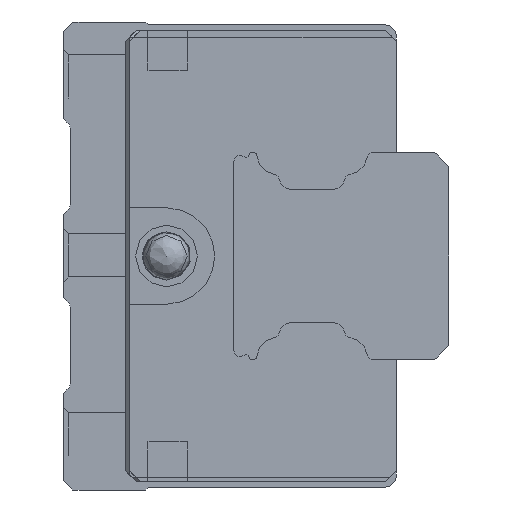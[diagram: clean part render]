
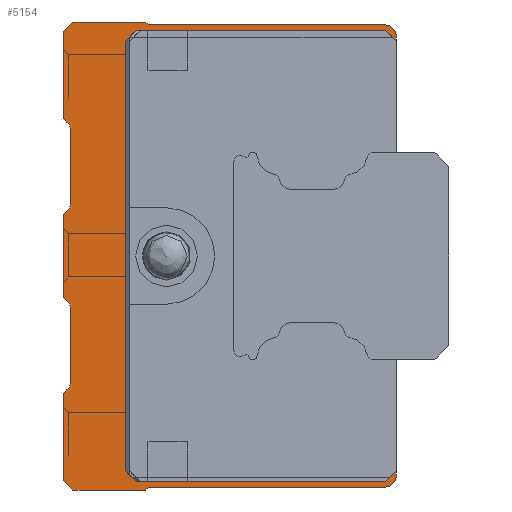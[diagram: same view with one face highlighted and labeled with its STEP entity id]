
A CAD part, left-side view. The second image highlights one B-rep face of the part: STEP entity #5154.
In plain terms, the highlighted planar face has unit normal (-1, 0, 0).
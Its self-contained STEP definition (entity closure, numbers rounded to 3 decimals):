
#67=LINE('',#7961,#382);
#75=LINE('',#7978,#390);
#82=LINE('',#7991,#397);
#108=LINE('',#8047,#423);
#116=LINE('',#8063,#431);
#122=LINE('',#8075,#437);
#147=LINE('',#8126,#462);
#152=LINE('',#8135,#467);
#154=LINE('',#8139,#469);
#158=LINE('',#8146,#473);
#162=LINE('',#8155,#477);
#165=LINE('',#8161,#480);
#169=LINE('',#8173,#484);
#173=LINE('',#8188,#488);
#177=LINE('',#8200,#492);
#180=LINE('',#8206,#495);
#183=LINE('',#8212,#498);
#186=LINE('',#8222,#501);
#189=LINE('',#8228,#504);
#193=LINE('',#8240,#508);
#197=LINE('',#8252,#512);
#200=LINE('',#8262,#515);
#203=LINE('',#8268,#518);
#207=LINE('',#8280,#522);
#211=LINE('',#8292,#526);
#214=LINE('',#8302,#529);
#382=VECTOR('',#6262,1000.);
#390=VECTOR('',#6276,1000.);
#397=VECTOR('',#6287,1000.);
#423=VECTOR('',#6327,1000.);
#431=VECTOR('',#6339,1000.);
#437=VECTOR('',#6351,1000.);
#462=VECTOR('',#6392,1000.);
#467=VECTOR('',#6399,1000.);
#469=VECTOR('',#6403,1000.);
#473=VECTOR('',#6409,1000.);
#477=VECTOR('',#6415,1000.);
#480=VECTOR('',#6420,1000.);
#484=VECTOR('',#6432,1000.);
#488=VECTOR('',#6450,1000.);
#492=VECTOR('',#6462,1000.);
#495=VECTOR('',#6467,1000.);
#498=VECTOR('',#6472,1000.);
#501=VECTOR('',#6481,1000.);
#504=VECTOR('',#6486,1000.);
#508=VECTOR('',#6498,1000.);
#512=VECTOR('',#6510,1000.);
#515=VECTOR('',#6519,1000.);
#518=VECTOR('',#6524,1000.);
#522=VECTOR('',#6536,1000.);
#526=VECTOR('',#6548,1000.);
#529=VECTOR('',#6557,1000.);
#731=PLANE('',#5582);
#1338=ORIENTED_EDGE('',*,*,#2393,.T.);
#1339=ORIENTED_EDGE('',*,*,#2400,.T.);
#1340=ORIENTED_EDGE('',*,*,#2473,.F.);
#1341=ORIENTED_EDGE('',*,*,#2495,.F.);
#1342=ORIENTED_EDGE('',*,*,#2492,.F.);
#1343=ORIENTED_EDGE('',*,*,#2489,.T.);
#1344=ORIENTED_EDGE('',*,*,#2486,.F.);
#1345=ORIENTED_EDGE('',*,*,#2483,.F.);
#1346=ORIENTED_EDGE('',*,*,#2479,.F.);
#1347=ORIENTED_EDGE('',*,*,#2557,.F.);
#1348=ORIENTED_EDGE('',*,*,#2552,.F.);
#1349=ORIENTED_EDGE('',*,*,#2549,.T.);
#1350=ORIENTED_EDGE('',*,*,#2546,.F.);
#1351=ORIENTED_EDGE('',*,*,#2543,.T.);
#1352=ORIENTED_EDGE('',*,*,#2540,.F.);
#1353=ORIENTED_EDGE('',*,*,#2537,.F.);
#1354=ORIENTED_EDGE('',*,*,#2532,.F.);
#1355=ORIENTED_EDGE('',*,*,#2529,.T.);
#1356=ORIENTED_EDGE('',*,*,#2526,.F.);
#1357=ORIENTED_EDGE('',*,*,#2523,.T.);
#1358=ORIENTED_EDGE('',*,*,#2520,.F.);
#1359=ORIENTED_EDGE('',*,*,#2517,.F.);
#1360=ORIENTED_EDGE('',*,*,#2512,.F.);
#1361=ORIENTED_EDGE('',*,*,#2509,.F.);
#1362=ORIENTED_EDGE('',*,*,#2506,.F.);
#1363=ORIENTED_EDGE('',*,*,#2503,.T.);
#1364=ORIENTED_EDGE('',*,*,#2500,.F.);
#1365=ORIENTED_EDGE('',*,*,#2497,.F.);
#1366=ORIENTED_EDGE('',*,*,#2475,.F.);
#1367=ORIENTED_EDGE('',*,*,#2435,.T.);
#1368=ORIENTED_EDGE('',*,*,#2442,.T.);
#1369=ORIENTED_EDGE('',*,*,#2427,.T.);
#1370=ORIENTED_EDGE('',*,*,#2468,.T.);
#1371=ORIENTED_EDGE('',*,*,#2384,.T.);
#2384=EDGE_CURVE('',#3042,#3041,#67,.T.);
#2393=EDGE_CURVE('',#3041,#3047,#75,.T.);
#2400=EDGE_CURVE('',#3047,#3051,#82,.T.);
#2427=EDGE_CURVE('',#3075,#3074,#108,.T.);
#2435=EDGE_CURVE('',#3081,#3080,#116,.T.);
#2442=EDGE_CURVE('',#3080,#3075,#122,.T.);
#2468=EDGE_CURVE('',#3074,#3042,#147,.T.);
#2473=EDGE_CURVE('',#3104,#3051,#152,.T.);
#2475=EDGE_CURVE('',#3081,#3106,#154,.T.);
#2479=EDGE_CURVE('',#3108,#3109,#158,.T.);
#2483=EDGE_CURVE('',#3109,#3112,#162,.T.);
#2486=EDGE_CURVE('',#3112,#3114,#165,.T.);
#2489=EDGE_CURVE('',#3116,#3114,#3537,.T.);
#2492=EDGE_CURVE('',#3116,#3118,#169,.T.);
#2495=EDGE_CURVE('',#3118,#3104,#3539,.T.);
#2497=EDGE_CURVE('',#3106,#3120,#3541,.T.);
#2500=EDGE_CURVE('',#3120,#3122,#173,.T.);
#2503=EDGE_CURVE('',#3124,#3122,#3543,.T.);
#2506=EDGE_CURVE('',#3124,#3126,#177,.T.);
#2509=EDGE_CURVE('',#3126,#3128,#180,.T.);
#2512=EDGE_CURVE('',#3128,#3130,#183,.T.);
#2517=EDGE_CURVE('',#3130,#3134,#186,.T.);
#2520=EDGE_CURVE('',#3134,#3136,#189,.T.);
#2523=EDGE_CURVE('',#3138,#3136,#3547,.T.);
#2526=EDGE_CURVE('',#3138,#3140,#193,.T.);
#2529=EDGE_CURVE('',#3142,#3140,#3549,.T.);
#2532=EDGE_CURVE('',#3142,#3144,#197,.T.);
#2537=EDGE_CURVE('',#3144,#3148,#200,.T.);
#2540=EDGE_CURVE('',#3148,#3150,#203,.T.);
#2543=EDGE_CURVE('',#3152,#3150,#3553,.T.);
#2546=EDGE_CURVE('',#3152,#3154,#207,.T.);
#2549=EDGE_CURVE('',#3156,#3154,#3555,.T.);
#2552=EDGE_CURVE('',#3156,#3158,#211,.T.);
#2557=EDGE_CURVE('',#3158,#3108,#214,.T.);
#3041=VERTEX_POINT('',#7960);
#3042=VERTEX_POINT('',#7962);
#3047=VERTEX_POINT('',#7977);
#3051=VERTEX_POINT('',#7990);
#3074=VERTEX_POINT('',#8046);
#3075=VERTEX_POINT('',#8048);
#3080=VERTEX_POINT('',#8062);
#3081=VERTEX_POINT('',#8064);
#3104=VERTEX_POINT('',#8134);
#3106=VERTEX_POINT('',#8140);
#3108=VERTEX_POINT('',#8147);
#3109=VERTEX_POINT('',#8148);
#3112=VERTEX_POINT('',#8156);
#3114=VERTEX_POINT('',#8162);
#3116=VERTEX_POINT('',#8168);
#3118=VERTEX_POINT('',#8174);
#3120=VERTEX_POINT('',#8183);
#3122=VERTEX_POINT('',#8189);
#3124=VERTEX_POINT('',#8195);
#3126=VERTEX_POINT('',#8201);
#3128=VERTEX_POINT('',#8207);
#3130=VERTEX_POINT('',#8213);
#3134=VERTEX_POINT('',#8223);
#3136=VERTEX_POINT('',#8229);
#3138=VERTEX_POINT('',#8235);
#3140=VERTEX_POINT('',#8241);
#3142=VERTEX_POINT('',#8247);
#3144=VERTEX_POINT('',#8253);
#3148=VERTEX_POINT('',#8263);
#3150=VERTEX_POINT('',#8269);
#3152=VERTEX_POINT('',#8275);
#3154=VERTEX_POINT('',#8281);
#3156=VERTEX_POINT('',#8287);
#3158=VERTEX_POINT('',#8293);
#3537=CIRCLE('',#5538,0.3);
#3539=CIRCLE('',#5542,0.8);
#3541=CIRCLE('',#5545,0.8);
#3543=CIRCLE('',#5549,0.3);
#3547=CIRCLE('',#5559,0.5);
#3549=CIRCLE('',#5563,0.5);
#3553=CIRCLE('',#5571,0.5);
#3555=CIRCLE('',#5575,0.5);
#3922=EDGE_LOOP('',(#1338,#1339,#1340,#1341,#1342,#1343,#1344,#1345,#1346,
#1347,#1348,#1349,#1350,#1351,#1352,#1353,#1354,#1355,#1356,#1357,#1358,
#1359,#1360,#1361,#1362,#1363,#1364,#1365,#1366,#1367,#1368,#1369,#1370,
#1371));
#4542=FACE_BOUND('',#3922,.T.);
#5154=ADVANCED_FACE('',(#4542),#731,.F.);
#5538=AXIS2_PLACEMENT_3D('',#8167,#6425,#6426);
#5542=AXIS2_PLACEMENT_3D('',#8179,#6437,#6438);
#5545=AXIS2_PLACEMENT_3D('',#8182,#6443,#6444);
#5549=AXIS2_PLACEMENT_3D('',#8194,#6455,#6456);
#5559=AXIS2_PLACEMENT_3D('',#8234,#6491,#6492);
#5563=AXIS2_PLACEMENT_3D('',#8246,#6503,#6504);
#5571=AXIS2_PLACEMENT_3D('',#8274,#6529,#6530);
#5575=AXIS2_PLACEMENT_3D('',#8286,#6541,#6542);
#5582=AXIS2_PLACEMENT_3D('',#8305,#6561,#6562);
#6262=DIRECTION('',(0.,-0.707,0.707));
#6276=DIRECTION('',(0.,-1.,0.));
#6287=DIRECTION('',(0.,-0.707,-0.707));
#6327=DIRECTION('',(0.,0.707,0.707));
#6339=DIRECTION('',(0.,0.707,-0.707));
#6351=DIRECTION('',(0.,1.,0.));
#6392=DIRECTION('',(0.,0.,1.));
#6399=DIRECTION('',(0.,0.,-1.));
#6403=DIRECTION('',(0.,0.,-1.));
#6409=DIRECTION('',(0.,-0.707,0.707));
#6415=DIRECTION('',(0.,-1.,0.));
#6420=DIRECTION('',(0.,-0.707,-0.707));
#6425=DIRECTION('',(1.,0.,0.));
#6426=DIRECTION('',(0.,0.,-1.));
#6432=DIRECTION('',(0.,-1.,0.));
#6437=DIRECTION('',(1.,0.,0.));
#6438=DIRECTION('',(0.,0.,-1.));
#6443=DIRECTION('',(1.,0.,0.));
#6444=DIRECTION('',(0.,0.,-1.));
#6450=DIRECTION('',(0.,1.,0.));
#6455=DIRECTION('',(1.,0.,0.));
#6456=DIRECTION('',(0.,0.,-1.));
#6462=DIRECTION('',(0.,0.707,-0.707));
#6467=DIRECTION('',(0.,1.,0.));
#6472=DIRECTION('',(0.,0.707,0.707));
#6481=DIRECTION('',(0.,0.,1.));
#6486=DIRECTION('',(0.,-0.707,0.707));
#6491=DIRECTION('',(1.,0.,0.));
#6492=DIRECTION('',(0.,0.,-1.));
#6498=DIRECTION('',(0.,0.,1.));
#6503=DIRECTION('',(1.,0.,0.));
#6504=DIRECTION('',(0.,0.,-1.));
#6510=DIRECTION('',(0.,0.707,0.707));
#6519=DIRECTION('',(0.,0.,1.));
#6524=DIRECTION('',(0.,-0.707,0.707));
#6529=DIRECTION('',(1.,0.,0.));
#6530=DIRECTION('',(0.,0.,-1.));
#6536=DIRECTION('',(0.,0.,1.));
#6541=DIRECTION('',(1.,0.,0.));
#6542=DIRECTION('',(0.,0.,-1.));
#6548=DIRECTION('',(0.,0.707,0.707));
#6557=DIRECTION('',(0.,0.,1.));
#6561=DIRECTION('',(1.,0.,0.));
#6562=DIRECTION('',(0.,0.,-1.));
#7960=CARTESIAN_POINT('',(-20.,18.9,16.4));
#7961=CARTESIAN_POINT('',(-20.,19.7,15.6));
#7962=CARTESIAN_POINT('',(-20.,19.7,15.6));
#7977=CARTESIAN_POINT('',(-20.,0.8,16.4));
#7978=CARTESIAN_POINT('',(-20.,18.9,16.4));
#7990=CARTESIAN_POINT('',(-20.,0.,15.6));
#7991=CARTESIAN_POINT('',(-20.,0.8,16.4));
#8046=CARTESIAN_POINT('',(-20.,19.7,-15.6));
#8047=CARTESIAN_POINT('',(-20.,18.9,-16.4));
#8048=CARTESIAN_POINT('',(-20.,18.9,-16.4));
#8062=CARTESIAN_POINT('',(-20.,0.8,-16.4));
#8063=CARTESIAN_POINT('',(-20.,0.,-15.6));
#8064=CARTESIAN_POINT('',(-20.,0.,-15.6));
#8075=CARTESIAN_POINT('',(-20.,0.8,-16.4));
#8126=CARTESIAN_POINT('',(-20.,19.7,-15.6));
#8134=CARTESIAN_POINT('',(-20.,0.,16.));
#8135=CARTESIAN_POINT('',(-20.,0.,16.));
#8139=CARTESIAN_POINT('',(-20.,0.,16.));
#8140=CARTESIAN_POINT('',(-20.,0.,-16.));
#8146=CARTESIAN_POINT('',(-20.,24.2,16.3));
#8147=CARTESIAN_POINT('',(-20.,24.2,16.3));
#8148=CARTESIAN_POINT('',(-20.,23.5,17.));
#8155=CARTESIAN_POINT('',(-20.,23.5,17.));
#8156=CARTESIAN_POINT('',(-20.,18.2,17.));
#8161=CARTESIAN_POINT('',(-20.,18.2,17.));
#8162=CARTESIAN_POINT('',(-20.,18.088,16.888));
#8167=CARTESIAN_POINT('',(-20.,17.876,17.1));
#8168=CARTESIAN_POINT('',(-20.,17.876,16.8));
#8173=CARTESIAN_POINT('',(-20.,17.876,16.8));
#8174=CARTESIAN_POINT('',(-20.,0.8,16.8));
#8179=CARTESIAN_POINT('',(-20.,0.8,16.));
#8182=CARTESIAN_POINT('',(-20.,0.8,-16.));
#8183=CARTESIAN_POINT('',(-20.,0.8,-16.8));
#8188=CARTESIAN_POINT('',(-20.,0.8,-16.8));
#8189=CARTESIAN_POINT('',(-20.,17.876,-16.8));
#8194=CARTESIAN_POINT('',(-20.,17.876,-17.1));
#8195=CARTESIAN_POINT('',(-20.,18.088,-16.888));
#8200=CARTESIAN_POINT('',(-20.,18.088,-16.888));
#8201=CARTESIAN_POINT('',(-20.,18.2,-17.));
#8206=CARTESIAN_POINT('',(-20.,18.2,-17.));
#8207=CARTESIAN_POINT('',(-20.,23.5,-17.));
#8212=CARTESIAN_POINT('',(-20.,23.5,-17.));
#8213=CARTESIAN_POINT('',(-20.,24.2,-16.3));
#8222=CARTESIAN_POINT('',(-20.,24.2,-16.3));
#8223=CARTESIAN_POINT('',(-20.,24.2,-10.));
#8228=CARTESIAN_POINT('',(-20.,24.2,-10.));
#8229=CARTESIAN_POINT('',(-20.,23.846,-9.646));
#8234=CARTESIAN_POINT('',(-20.,24.2,-9.293));
#8235=CARTESIAN_POINT('',(-20.,23.7,-9.293));
#8240=CARTESIAN_POINT('',(-20.,23.7,-9.293));
#8241=CARTESIAN_POINT('',(-20.,23.7,-3.707));
#8246=CARTESIAN_POINT('',(-20.,24.2,-3.707));
#8247=CARTESIAN_POINT('',(-20.,23.846,-3.354));
#8252=CARTESIAN_POINT('',(-20.,23.846,-3.354));
#8253=CARTESIAN_POINT('',(-20.,24.2,-3.));
#8262=CARTESIAN_POINT('',(-20.,24.2,-3.));
#8263=CARTESIAN_POINT('',(-20.,24.2,3.));
#8268=CARTESIAN_POINT('',(-20.,24.2,3.));
#8269=CARTESIAN_POINT('',(-20.,23.846,3.354));
#8274=CARTESIAN_POINT('',(-20.,24.2,3.707));
#8275=CARTESIAN_POINT('',(-20.,23.7,3.707));
#8280=CARTESIAN_POINT('',(-20.,23.7,3.707));
#8281=CARTESIAN_POINT('',(-20.,23.7,9.293));
#8286=CARTESIAN_POINT('',(-20.,24.2,9.293));
#8287=CARTESIAN_POINT('',(-20.,23.846,9.646));
#8292=CARTESIAN_POINT('',(-20.,23.846,9.646));
#8293=CARTESIAN_POINT('',(-20.,24.2,10.));
#8302=CARTESIAN_POINT('',(-20.,24.2,10.));
#8305=CARTESIAN_POINT('',(-20.,17.876,17.1));
